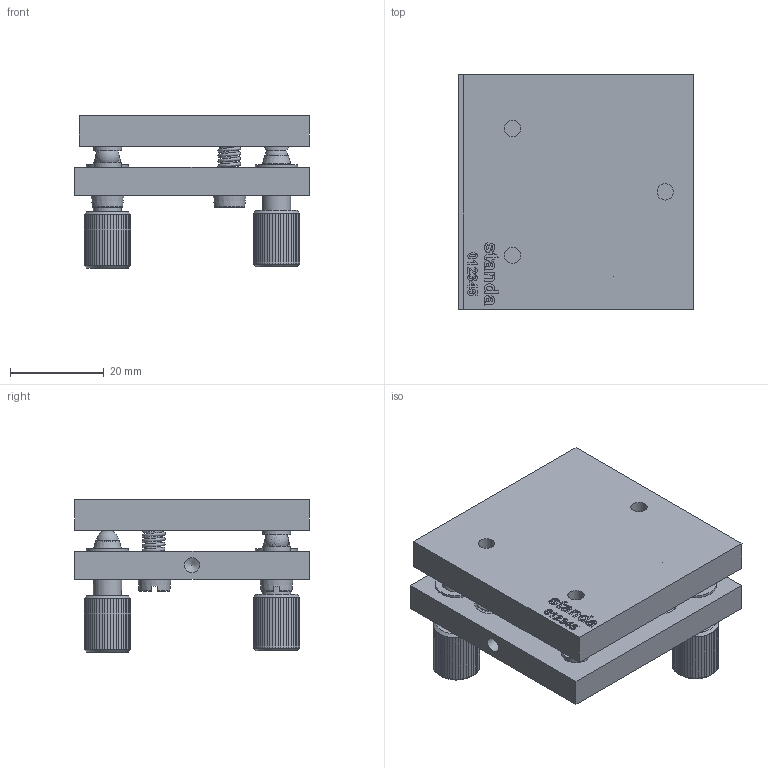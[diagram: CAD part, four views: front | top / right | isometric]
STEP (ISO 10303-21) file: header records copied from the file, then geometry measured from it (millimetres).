
FILE_DESCRIPTION(/* description */ (''),/* implementation_level */ '2;1');
FILE_NAME(/* name */ 'U:\KONSTRUKTORIAI\DOKUMENTACIJA\5\5UM122\step\5UM122.STEP',/* time_stamp */ '2017-04-26T15:54:20+03:00',/* author */ ('dsgn33'),/* organization */ (''),/* preprocessor_version */ 'ST-DEVELOPER v15.2',/* originating_system */ 'Autodesk Inventor 2014',/* authorisation */ '');
FILE_SCHEMA (('AUTOMOTIVE_DESIGN { 1 0 10303 214 3 1 1 }'));
Length unit declared in the file: millimetre
Products named in the file (2): Part4; Assembly1
Bounding box: 50 x 50 x 32.51 mm (x, y, z)
Volume: 32459.6 mm3; surface area: 16109.7 mm2
Topology: 1 solids, 15 shells, 675 faces, 1460 edges, 830 vertices
Faces by surface type: plane 454, bspline 118, cylinder 48, cone 42, sphere 9, torus 4
Full cylindrical faces by diameter (mm): 2 x2, 3.242 x1, 3.459 x3, 3.621 x2, 4 x4, 4.6 x2, 4.76 x4, 4.8 x2, 5 x2, 5.4 x2, 6 x11, 6.1 x1, 6.2 x3, 6.4 x2, 8 x2, 9 x2
Entity records: 21083 total; most frequent: CARTESIAN_POINT 8050, ORIENTED_EDGE 2598, DIRECTION 2480, EDGE_CURVE 1293, AXIS2_PLACEMENT_3D 903, EDGE_LOOP 824, VERTEX_POINT 761, LINE 674
